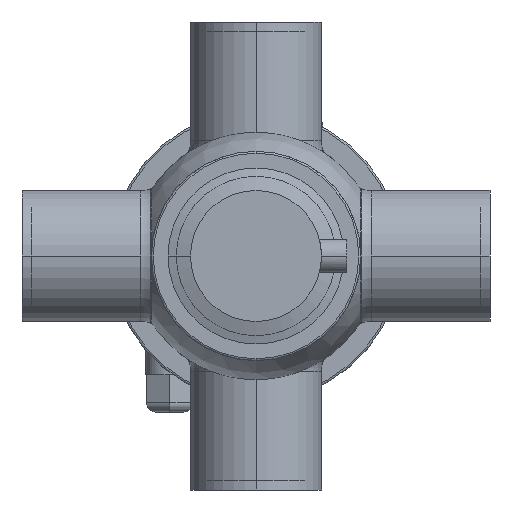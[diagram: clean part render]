
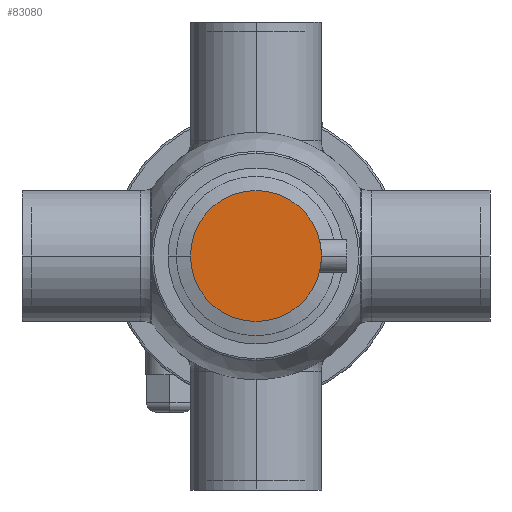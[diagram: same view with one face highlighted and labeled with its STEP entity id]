
A CAD part, front view. The second image highlights one B-rep face of the part: STEP entity #83080.
In plain terms, the highlighted planar face has unit normal (0, -1, 0).
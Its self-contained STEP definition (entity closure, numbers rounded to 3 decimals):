
#77590=CARTESIAN_POINT('',(35.,-92.85,0.))
;
#77600=VERTEX_POINT('',#77590);
#82840=CARTESIAN_POINT('',(-35.,-92.85,0.));
#82850=VERTEX_POINT('',#82840);
#82880=CARTESIAN_POINT('',(0.,-92.85,0.));
#82890=DIRECTION('',(0.,-1.,0.));
#82900=DIRECTION('',(-1.,0.,0.));
#82910=AXIS2_PLACEMENT_3D('',#82880,#82890,#82900);
#82920=CIRCLE('',#82910,35.);
#82930=EDGE_CURVE('',#82850,#77600,#82920,.T.);
#82980=CARTESIAN_POINT('',(0.,-92.85,0.));
#82990=DIRECTION('',(0.,-1.,0.));
#83000=DIRECTION('',(-1.,0.,0.));
#83010=AXIS2_PLACEMENT_3D('',#82980,#82990,#83000);
#83020=PLANE('',#83010);
#83030=EDGE_CURVE('',#77600,#82850,#82920,.T.);
#83040=ORIENTED_EDGE('',*,*,#83030,.T.);
#83050=ORIENTED_EDGE('',*,*,#82930,.T.);
#83060=EDGE_LOOP('',(#83050,#83040));
#83070=FACE_OUTER_BOUND('',#83060,.T.);
#83080=ADVANCED_FACE('',(#83070),#83020,.T.);
